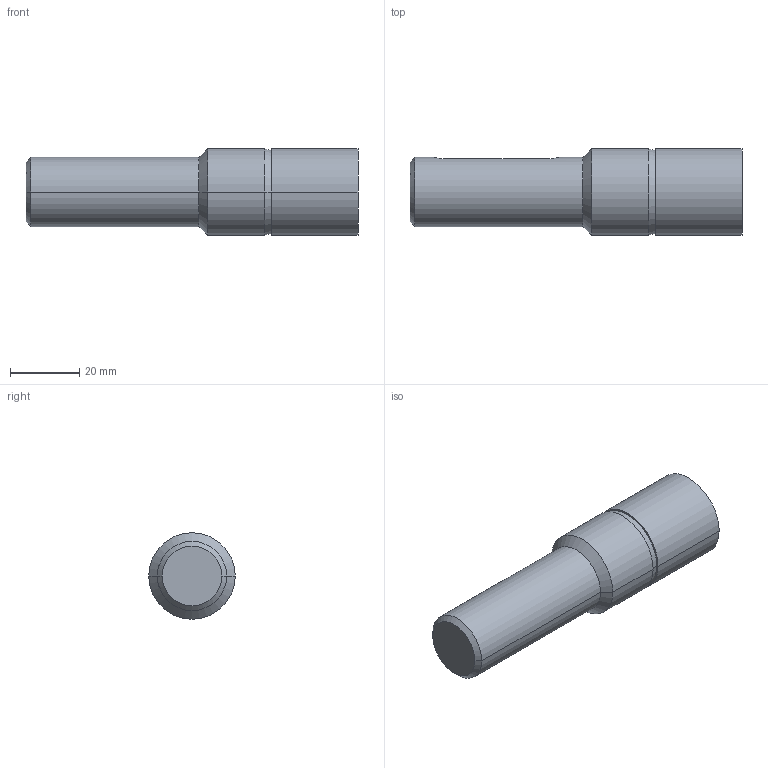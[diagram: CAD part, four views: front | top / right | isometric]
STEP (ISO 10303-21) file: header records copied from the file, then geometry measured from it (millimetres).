
FILE_DESCRIPTION (( 'STEP AP203' ), '1' );
FILE_NAME ('S2-25.STEP', '2002-08-16T10:48:47', ( '.' ), ( '.' ), 'SwSTEP 2.0', 'SolidWorks 2001340', '' );
FILE_SCHEMA (( 'CONFIG_CONTROL_DESIGN' ));
Length unit declared in the file: millimetre
Products named in the file (1): S2-25
Bounding box: 96 x 25 x 25 mm (x, y, z)
Volume: 37260.5 mm3; surface area: 7843.1 mm2
Topology: 1 solids, 1 shells, 20 faces, 43 edges, 26 vertices
Faces by surface type: cylinder 8, cone 6, plane 6
Entity records: 674 total; most frequent: CARTESIAN_POINT 154, DIRECTION 99, ORIENTED_EDGE 86, EDGE_CURVE 43, AXIS2_PLACEMENT_3D 39, VERTEX_POINT 26, LINE 21, VECTOR 21
